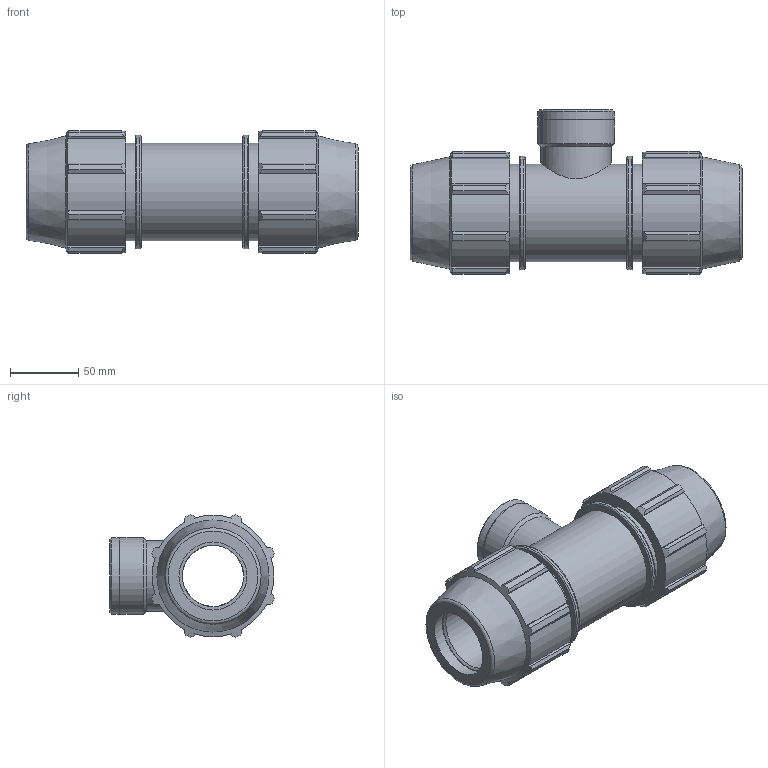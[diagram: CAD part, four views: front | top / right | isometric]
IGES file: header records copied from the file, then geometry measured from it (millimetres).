
Global section: file name: 0714P0050015__0714P60500150A.ipt; native system: Autodesk Inventor 2015; preprocessor: unknown; author: KIM; date: 20170608.042124; units: millimetre
Bounding box: 244 x 121.16 x 90.33 mm (x, y, z)
Volume: 797953 mm3; surface area: 131372.4 mm2
Topology: 1 solids, 1 shells, 157 faces, 441 edges, 298 vertices
Faces by surface type: plane 79, cylinder 40, cone 23, revolution 15
Full cylindrical faces by diameter (mm): 51.572 x1, 56.056 x2, 72 x3, 83.52 x2
